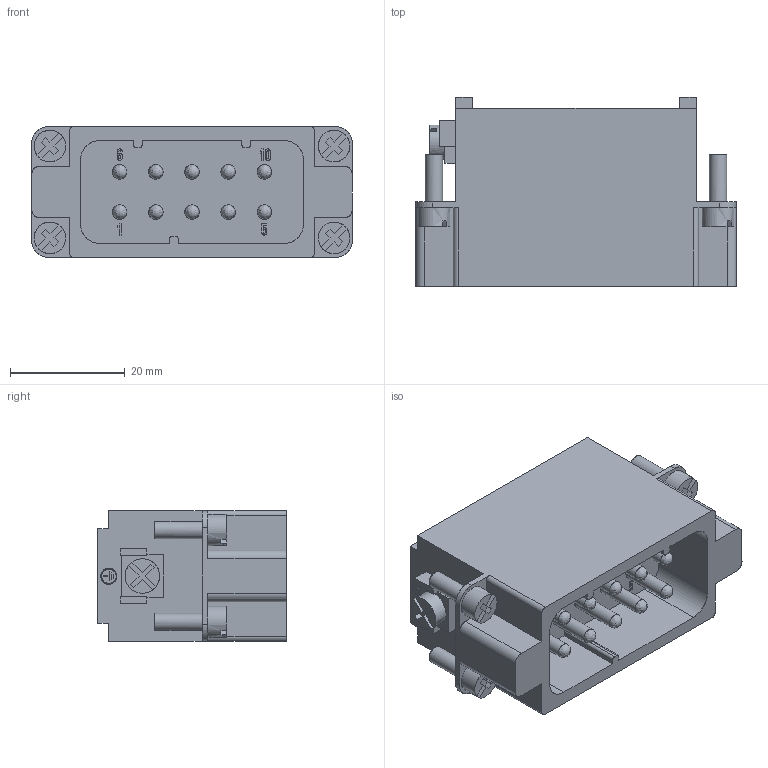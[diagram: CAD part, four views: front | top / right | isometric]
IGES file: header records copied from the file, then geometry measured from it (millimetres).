
Start section: VISI Layer Mapping Iges    VISI  0      LAYER0  1      WARNINGS
Global section: file name: G:\Produktkommunikation\Support\CD-Online-Katalog\3D Daten Produkte\E2702\E2702_10A.igs; native system: VISI 20.0; preprocessor: 2.0; author: nus; organization: Unknown; date: 20130402.120922; units: millimetre
Bounding box: 55.9 x 32.9 x 22.8 mm (x, y, z)
Surface area: 11123.7 mm2 (no closed solid volume)
Topology: 0 solids, 0 shells, 337 faces, 2780 edges, 2713 vertices
Faces by surface type: bspline 337
